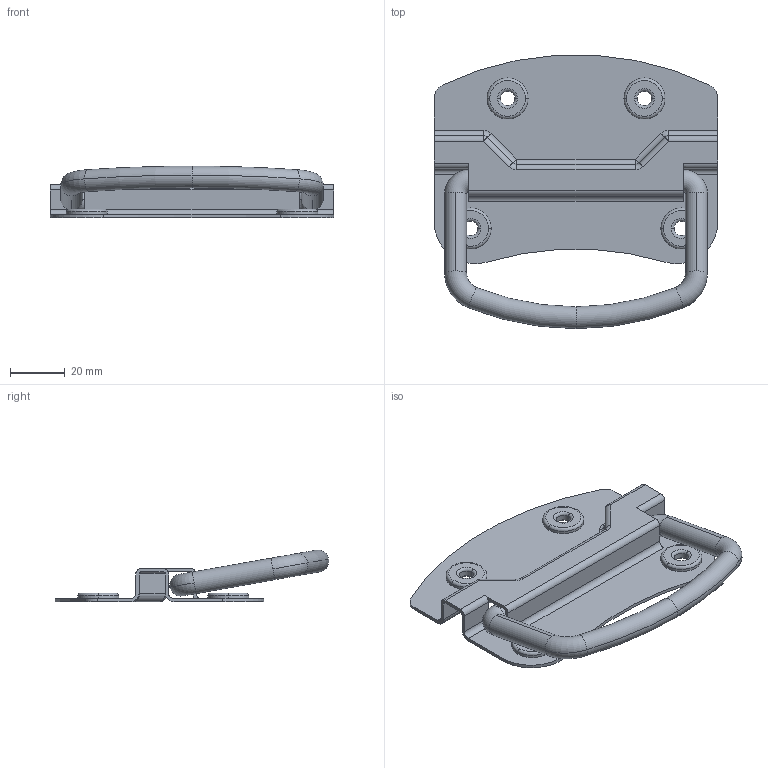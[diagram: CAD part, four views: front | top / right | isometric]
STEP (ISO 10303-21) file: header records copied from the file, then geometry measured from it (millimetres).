
FILE_DESCRIPTION (( 'STEP AP203' ), '1' );
FILE_NAME ('A-3104.STEP', '2015-11-18T03:47:48', ( '' ), ( '' ), 'SwSTEP 2.0', 'SolidWorks 2014', '' );
FILE_SCHEMA (( 'CONFIG_CONTROL_DESIGN' ));
Length unit declared in the file: millimetre
Products named in the file (1): A-3104
Bounding box: 103.5 x 99.91 x 18.93 mm (x, y, z)
Volume: 22187.7 mm3; surface area: 25062.2 mm2
Topology: 2 solids, 2 shells, 180 faces, 438 edges, 262 vertices
Faces by surface type: cylinder 86, plane 42, torus 36, cone 8, sphere 8
Entity records: 5355 total; most frequent: DIRECTION 1046, CARTESIAN_POINT 873, ORIENTED_EDGE 860, AXIS2_PLACEMENT_3D 435, EDGE_CURVE 430, VERTEX_POINT 262, CIRCLE 254, EDGE_LOOP 200
